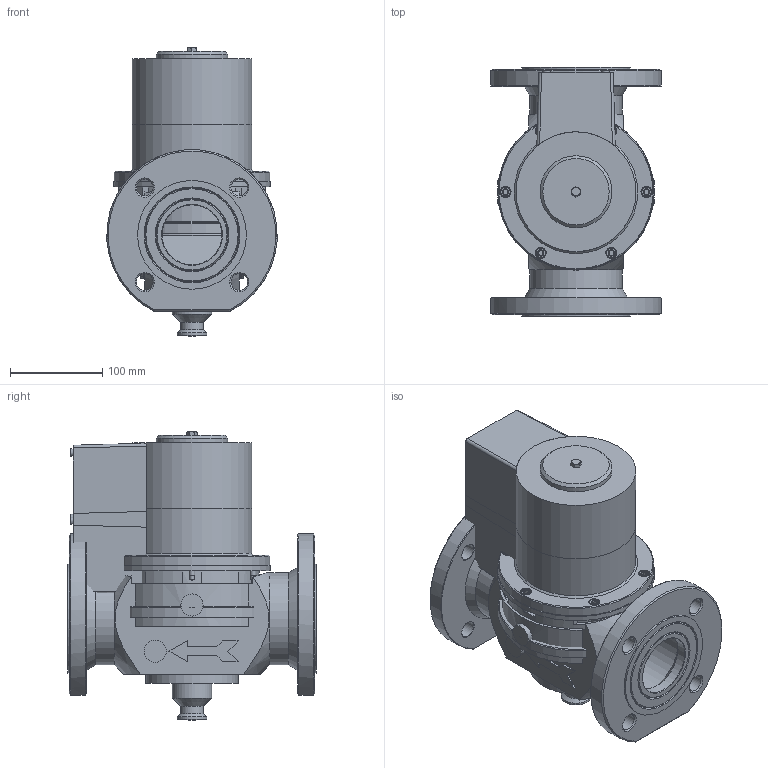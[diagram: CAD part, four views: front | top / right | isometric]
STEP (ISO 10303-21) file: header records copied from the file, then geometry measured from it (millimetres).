
FILE_DESCRIPTION( ( 'Unknown' ), '1' );
FILE_NAME( 'D:/Wyroby/Widoki gabarytowe/Zawory ZEA/ZEA_65k/ZEA_65k.stp', 'Unknown', ( 'Unknown' ), ( 'Unknown' ), 'XStep 1.0', 'Unknown', ' ' );
FILE_SCHEMA( ( 'CONFIG_CONTROL_DESIGN' ) );
Length unit declared in the file: millimetre
Products named in the file (36): Wa_091_01_02; Wa_056_01_00; Wa_054_01_01; Assem1; Wa_110_01_02bez_korków; Wa_053_01_02; Wa_091_01_03got.; Wa_031_01_05_001got; Wa_091_01_02_001got.; Wa_091_01_02_002got.; Wa_110_01_02bez_gniazda; Wa_053_01_01_001gotowe; Wa_053_01_02_001zaci從i黎y; Wa_053_01_02_003zaci從i黎a; Wa_053_01_02_002; Ko³ek 6x50; Wa_031_01_00_006; Wa_091_01_04_010; Wa_031_01_00_007; Wa_053_01_09; Wa_054_01_00_001; Wa_054_01_00_002彡i從i黎a; Wa_091_01_00_005; Œ-006m6x12szeœc.; Œ-008ImbusM6x16; T-026; K-006got.; Oring138x3彡i從i黎y; Wa_091_01_00_002; Cewka_80
Bounding box: 184.67 x 270 x 313 mm (x, y, z)
Volume: 6019906.7 mm3; surface area: 2323000.9 mm2
Topology: 102 solids, 106 shells, 1954 faces, 4277 edges, 2762 vertices
Faces by surface type: plane 913, cylinder 551, cone 450, torus 24, sphere 13, bspline 3
Full cylindrical faces by diameter (mm): 2 x9, 2.1 x8, 2.5 x10, 4.917 x28, 6 x29, 6.2 x10, 6.5 x3, 6.6 x18, 8 x8, 10 x26, 11 x18, 18 x32, 24 x16, 25 x4, 26 x3, 30 x3, 32 x4, 32.2 x8, 40 x4, 41 x3, 42.8 x4, 43 x4, 43.7 x12, 45 x4, 46 x8, 46.6 x8, 46.917 x8, 48 x8, 48.317 x8, 49 x4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
Entity records: 16846 total; most frequent: CARTESIAN_POINT 4557, DIRECTION 2336, ORIENTED_EDGE 1672, AXIS2_PLACEMENT_3D 1022, EDGE_LOOP 928, EDGE_CURVE 836, VERTEX_POINT 687, FACE_OUTER_BOUND 682
